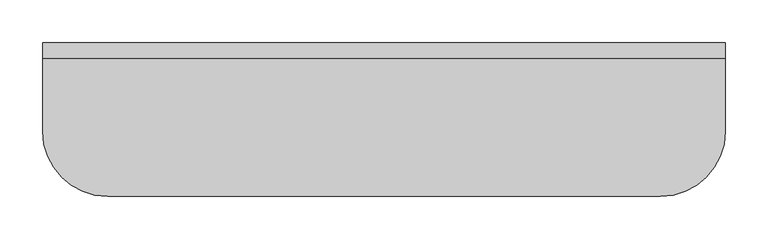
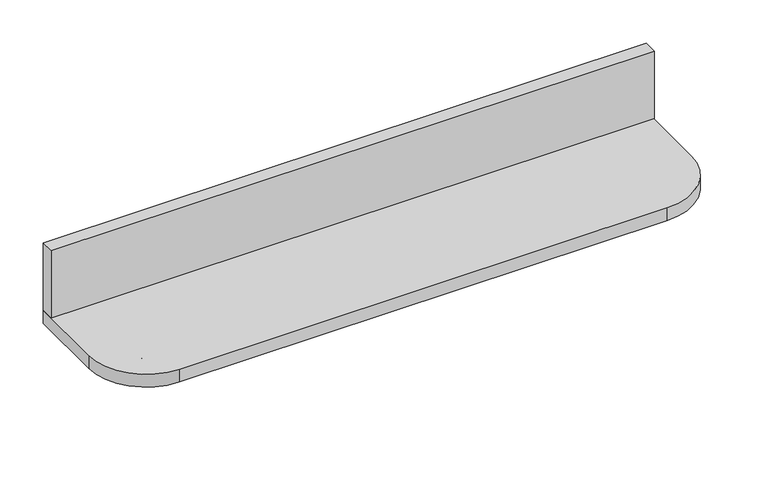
"""IFC4 building model written with IfcOpenShell, lengths in millimetres: furniture geometry, Mobiliário_Mobiliário de Escritório_Prateleira - CTPR08_Marelli : CTPR 08."""

import ifcopenshell
import ifcopenshell.guid

model = None  # the IFC model being written
_history = None  # IfcOwnerHistory: only IFC2X3 demands one
_inside = {}  # id of a spatial element -> (the spatial element, [elements in it])
_under = {}  # id of a project, library or spatial element -> (it, [spatial elements below it])
_declared = {}  # id of a project -> (the project, [libraries it declares])
_typed = {}  # id of a type object -> (the type object, [elements of that type])
_made_of = {}  # id of a material, layer set ... -> (it, [elements and type objects made of it])


def new_model(schema):
    """Start an empty IFC model of exactly this schema.

    Asked for "IFC4X3", IfcOpenShell would pick the latest addendum, in which some entities
    have other attributes; the version numbers below select the first issue.
    IFC2X3 requires an IfcOwnerHistory on every rooted entity: one is made here for all.
    """
    global model, _history
    if schema == "IFC4X3":
        model = ifcopenshell.file(schema_version=(4, 3, 0, 0))
    else:
        model = ifcopenshell.file(schema=schema)
    _inside.clear()
    _under.clear()
    _declared.clear()
    _typed.clear()
    _made_of.clear()
    _history = None
    if model.schema == "IFC2X3":
        org = make("IfcOrganization", Name="unknown")
        user = make(
            "IfcPersonAndOrganization",
            ThePerson=make("IfcPerson", FamilyName="unknown"),
            TheOrganization=org,
        )
        app = make(
            "IfcApplication",
            ApplicationDeveloper=org,
            Version="unknown",
            ApplicationFullName="unknown",
            ApplicationIdentifier="unknown",
        )
        _history = make(
            "IfcOwnerHistory",
            OwningUser=user,
            OwningApplication=app,
            ChangeAction="ADDED",
            CreationDate=0,
        )
    return model


def make(cls, **values):
    """One entity of the class cls with the attributes given. An attribute that is None is left unset."""
    return model.create_entity(
        cls, **{name: value for name, value in values.items() if value is not None}
    )


def rooted(cls, **values):
    """An entity with a GlobalId (a new one), such as an element, a storey or a relation."""
    return make(cls, GlobalId=ifcopenshell.guid.new(), OwnerHistory=_history, **values)


def si_unit(unit_type, name, prefix=None):
    """IfcSIUnit, for example si_unit("LENGTHUNIT", "METRE", prefix="MILLI")."""
    return make("IfcSIUnit", UnitType=unit_type, Prefix=prefix, Name=name)


def assignment(units):
    """IfcUnitAssignment: the units of a project."""
    return None if units is None else make("IfcUnitAssignment", Units=units)


def point(xyz):
    """IfcCartesianPoint."""
    return None if xyz is None else make("IfcCartesianPoint", Coordinates=xyz)


def direction(xyz):
    """IfcDirection."""
    return None if xyz is None else make("IfcDirection", DirectionRatios=xyz)


def frame(location, z_axis=None, x_axis=None):
    """IfcAxis2Placement3D, a coordinate frame: its origin and axes. An axis left out is left unset."""
    return make(
        "IfcAxis2Placement3D",
        Location=point(location),
        Axis=direction(z_axis),
        RefDirection=direction(x_axis),
    )


def frame_2d(location, x_axis=None):
    """IfcAxis2Placement2D, a coordinate frame in the plane: its origin and x axis."""
    return make(
        "IfcAxis2Placement2D", Location=point(location), RefDirection=direction(x_axis)
    )


def origin():
    """The frame at (0, 0, 0) with its axes left unset."""
    return frame((0.0, 0.0, 0.0))


def origin_with_axes():
    """The frame at (0, 0, 0) with the z axis (0, 0, 1) and the x axis (1, 0, 0) written out."""
    return frame((0.0, 0.0, 0.0), z_axis=(0.0, 0.0, 1.0), x_axis=(1.0, 0.0, 0.0))


def place(relative_to, where):
    """IfcLocalPlacement: puts the frame where relative to a parent placement (None: the world)."""
    return make(
        "IfcLocalPlacement", PlacementRelTo=relative_to, RelativePlacement=where
    )


def context(
    kind, dimensions, precision=None, world=None, true_north=None, identifier=None
):
    """IfcGeometricRepresentationContext, for example the 3D "Model" context."""
    return make(
        "IfcGeometricRepresentationContext",
        ContextIdentifier=identifier,
        ContextType=kind,
        CoordinateSpaceDimension=dimensions,
        Precision=precision,
        WorldCoordinateSystem=world,
        TrueNorth=true_north,
    )


def project(units=None, contexts=None):
    """IfcProject with its units and contexts."""
    return rooted(
        "IfcProject",
        Name="project",
        RepresentationContexts=contexts,
        UnitsInContext=assignment(units),
    )


def spatial(cls, under=None, at=None, **own):
    """A site, building, storey or space (cls), placed at a placement, below another one or the project."""
    s = rooted(cls, ObjectPlacement=at, **own)
    if under is not None:
        _under.setdefault(under.id(), (under, []))[1].append(s)
    return s


def polyline(points):
    """IfcPolyline through the points."""
    return make("IfcPolyline", Points=[point(p) for p in points])


def circle_curve(where, radius):
    """IfcCircle in the frame where."""
    return make("IfcCircle", Position=where, Radius=radius)


def trimmed(basis, trim1, trim2, sense, master):
    """IfcTrimmedCurve: the piece of a basis curve between two trims."""
    return make(
        "IfcTrimmedCurve",
        BasisCurve=basis,
        Trim1=trim1,
        Trim2=trim2,
        SenseAgreement=sense,
        MasterRepresentation=master,
    )


def segment(curve, same_sense, transition):
    """IfcCompositeCurveSegment."""
    return make(
        "IfcCompositeCurveSegment",
        Transition=transition,
        SameSense=same_sense,
        ParentCurve=curve,
    )


def composite_curve(segments, self_intersect=None):
    """IfcCompositeCurve: segments joined end to end."""
    return make("IfcCompositeCurve", Segments=segments, SelfIntersect=self_intersect)


def outline(outer, holes=None, kind="AREA"):
    """IfcArbitraryClosedProfileDef: a profile drawn as a closed curve; with holes, ...WithVoids."""
    if holes is None:
        return make("IfcArbitraryClosedProfileDef", ProfileType=kind, OuterCurve=outer)
    return make(
        "IfcArbitraryProfileDefWithVoids",
        ProfileType=kind,
        OuterCurve=outer,
        InnerCurves=holes,
    )


def extrude(swept, where, along, depth):
    """IfcExtrudedAreaSolid: the profile swept, set in the frame where, extruded along a direction by depth."""
    return make(
        "IfcExtrudedAreaSolid",
        SweptArea=swept,
        Position=where,
        ExtrudedDirection=direction(along),
        Depth=depth,
    )


def shape(context_of_items, identifier, shape_type, items):
    """IfcShapeRepresentation: the items that make up one representation, for example the "Body"."""
    return make(
        "IfcShapeRepresentation",
        ContextOfItems=context_of_items,
        RepresentationIdentifier=identifier,
        RepresentationType=shape_type,
        Items=items,
    )


def source(mapping_origin, context_of_items, identifier, shape_type, items):
    """IfcRepresentationMap: a shape defined once, which mapped items show again and again."""
    return make(
        "IfcRepresentationMap",
        MappingOrigin=mapping_origin,
        MappedRepresentation=shape(context_of_items, identifier, shape_type, items),
    )


def transform(
    local_origin,
    x_axis=None,
    y_axis=None,
    z_axis=None,
    scale=None,
    scale2=None,
    scale3=None,
    uniform=True,
):
    """IfcCartesianTransformationOperator3D, or its non-uniform kind. x_axis, y_axis, z_axis: its Axis1, 2, 3."""
    if uniform:
        return make(
            "IfcCartesianTransformationOperator3D",
            Axis1=direction(x_axis),
            Axis2=direction(y_axis),
            LocalOrigin=point(local_origin),
            Scale=scale,
            Axis3=direction(z_axis),
        )
    return make(
        "IfcCartesianTransformationOperator3DnonUniform",
        Axis1=direction(x_axis),
        Axis2=direction(y_axis),
        LocalOrigin=point(local_origin),
        Scale=scale,
        Axis3=direction(z_axis),
        Scale2=scale2,
        Scale3=scale3,
    )


def mapped(mapping_source, mapping_target):
    """IfcMappedItem: shows the shape of a source again, moved by a transform."""
    return make(
        "IfcMappedItem", MappingSource=mapping_source, MappingTarget=mapping_target
    )


def made_of(thing, what):
    """Note that an element or type object is made of a material, layer set ...; save() writes the relation."""
    if what is not None:
        _made_of.setdefault(what.id(), (what, []))[1].append(thing)
    return thing


def element(
    cls,
    number,
    at=None,
    inside=None,
    cuts=None,
    type_object=None,
    material=None,
    context=None,
    identifier="Body",
    shape_type=None,
    held_by="IfcProductDefinitionShape",
    body=None,
    shapes=None,
    **own,
):
    """One element of the class cls, such as IfcWall. Its Tag is "e" and its number.

    at: its placement. inside: the storey or other place that contains it. cuts: it is an
    opening in that element (IfcRelVoidsElement). A single representation is given by context,
    identifier, shape_type and body (its items); several are given by shapes. held_by: the class
    of the entity that holds the representations. save() writes the other relations.
    """
    e = rooted(cls, Tag="e%d" % number, ObjectPlacement=at, **own)
    if body is not None:
        shapes = [shape(context, identifier, shape_type, body)]
    if shapes is not None:
        e.Representation = make(held_by, Representations=shapes)
    if inside is not None:
        _inside.setdefault(inside.id(), (inside, []))[1].append(e)
    if cuts is not None:
        rooted(
            "IfcRelVoidsElement", RelatingBuildingElement=cuts, RelatedOpeningElement=e
        )
    if type_object is not None:
        _typed.setdefault(type_object.id(), (type_object, []))[1].append(e)
    return made_of(e, material)


def aggregate(whole, parts):
    """IfcRelAggregates: a whole, such as a stair, and the parts it consists of."""
    return rooted("IfcRelAggregates", RelatingObject=whole, RelatedObjects=parts)


def save(model, path):
    """Write the relations noted so far, then the file.

    IfcRelAggregates (storeys below a building ...), IfcRelContainedInSpatialStructure (elements
    in a storey), IfcRelDefinesByType, IfcRelAssociatesMaterial and IfcRelDeclares: one each for
    every whole, place, type object, material and project.
    """
    for whole, parts in _under.values():
        aggregate(whole, parts)
    for where, things in _inside.values():
        rooted(
            "IfcRelContainedInSpatialStructure",
            RelatedElements=things,
            RelatingStructure=where,
        )
    for kind, things in _typed.values():
        rooted("IfcRelDefinesByType", RelatedObjects=things, RelatingType=kind)
    for what, things in _made_of.values():
        rooted("IfcRelAssociatesMaterial", RelatedObjects=things, RelatingMaterial=what)
    for by, libraries in _declared.values():
        rooted("IfcRelDeclares", RelatingContext=by, RelatedDefinitions=libraries)
    model.write(path)


def furniture_4c59f325(model_context):
    return source(origin(), model_context, "Body", "SweptSolid", [
        extrude(outline(composite_curve([segment(polyline([(724.0, 0.0), (76.0, 0.0)]), True, "CONTINUOUS"), segment(trimmed(circle_curve(frame_2d((76.0, 76.0)), 76.0), [point((76.0, 0.0))], [point((0.0, 76.0))], False, "CARTESIAN"), True, "CONTINUOUS"), segment(polyline([(0.0, 76.0), (0.0, 180.0), (800.0, 180.0), (800.0, 76.0)]), True, "CONTINUOUS"), segment(trimmed(circle_curve(frame_2d((724.0, 76.0)), 76.0), [point((800.0, 76.0))], [point((724.0, 0.0))], False, "CARTESIAN"), True, "CONTINUOUS")], self_intersect=False)), origin_with_axes(), (0.0, 0.0, 1.0), 18.0),
        extrude(outline(polyline([(0.0, 180.0), (800.0, 180.0), (800.0, 162.0), (0.0, 162.0), (0.0, 180.0)])), frame((0.0, 0.0, 18.0), z_axis=(0.0, 0.0, 1.0), x_axis=(1.0, 0.0, 0.0)), (0.0, 0.0, 1.0), 95.0),
        extrude(outline(composite_curve([segment(trimmed(circle_curve(frame_2d((88.0, 163.0)), 5.0), [point((88.0, 168.0))], [point((93.0, 163.0))], False, "CARTESIAN"), True, "CONTINUOUS"), segment(polyline([(93.0, 163.0), (93.0, 21.0)]), True, "CONTINUOUS"), segment(trimmed(circle_curve(frame_2d((88.0, 21.0)), 5.0), [point((93.0, 21.0))], [point((88.0, 16.0))], False, "CARTESIAN"), True, "CONTINUOUS"), segment(polyline([(88.0, 16.0), (48.0, 16.0)]), True, "CONTINUOUS"), segment(trimmed(circle_curve(frame_2d((48.0, 21.0)), 5.0), [point((48.0, 16.0))], [point((43.0, 21.0))], False, "CARTESIAN"), True, "CONTINUOUS"), segment(polyline([(43.0, 21.0), (43.0, 163.0)]), True, "CONTINUOUS"), segment(trimmed(circle_curve(frame_2d((48.0, 163.0)), 5.0), [point((43.0, 163.0))], [point((48.0, 168.0))], False, "CARTESIAN"), True, "CONTINUOUS"), segment(polyline([(48.0, 168.0), (88.0, 168.0)]), True, "CONTINUOUS")], self_intersect=False)), frame((0.0, 0.0, -3.0), z_axis=(0.0, 0.0, 1.0), x_axis=(1.0, 0.0, 0.0)), (0.0, 0.0, 1.0), 3.0),
        extrude(outline(composite_curve([segment(polyline([(712.0, 168.0), (752.0, 168.0)]), True, "CONTINUOUS"), segment(trimmed(circle_curve(frame_2d((752.0, 163.0)), 5.0), [point((752.0, 168.0))], [point((757.0, 163.0))], False, "CARTESIAN"), True, "CONTINUOUS"), segment(polyline([(757.0, 163.0), (757.0, 21.0)]), True, "CONTINUOUS"), segment(trimmed(circle_curve(frame_2d((752.0, 21.0)), 5.0), [point((757.0, 21.0))], [point((752.0, 16.0))], False, "CARTESIAN"), True, "CONTINUOUS"), segment(polyline([(752.0, 16.0), (712.0, 16.0)]), True, "CONTINUOUS"), segment(trimmed(circle_curve(frame_2d((712.0, 21.0)), 5.0), [point((712.0, 16.0))], [point((707.0, 21.0))], False, "CARTESIAN"), True, "CONTINUOUS"), segment(polyline([(707.0, 21.0), (707.0, 163.0)]), True, "CONTINUOUS"), segment(trimmed(circle_curve(frame_2d((712.0, 163.0)), 5.0), [point((707.0, 163.0))], [point((712.0, 168.0))], False, "CARTESIAN"), True, "CONTINUOUS")], self_intersect=False)), frame((0.0, 0.0, -3.0), z_axis=(0.0, 0.0, 1.0), x_axis=(1.0, 0.0, 0.0)), (0.0, 0.0, 1.0), 3.0),
        extrude(outline(composite_curve([segment(polyline([(168.0, -21.0), (177.0, -21.0), (177.0, -38.0), (170.0, -38.0), (169.005656, -29.0), (168.0, -29.0), (168.0, -61.0), (177.0, -61.0), (177.0, -78.0), (170.0, -78.0), (169.005656, -69.0), (168.0, -69.0), (168.0, -78.0), (162.0, -78.0)]), True, "CONTINUOUS"), segment(trimmed(circle_curve(frame_2d((162.0, -73.9980971)), 4.0019029), [point((162.0, -78.0))], [point((157.9980971, -73.9980971))], False, "CARTESIAN"), True, "CONTINUOUS"), segment(trimmed(circle_curve(frame_2d((75.5, -95.1720048)), 85.1720048), [point((157.9980971, -73.9980971))], [point((75.5, -10.0))], True, "CARTESIAN"), True, "CONTINUOUS"), segment(trimmed(circle_curve(frame_2d((75.5, -6.5)), 3.5), [point((75.5, -10.0))], [point((72.0, -6.5))], False, "CARTESIAN"), True, "CONTINUOUS"), segment(polyline([(72.0, -6.5), (72.0, -3.0), (168.0, -3.0), (168.0, -21.0)]), True, "CONTINUOUS")], self_intersect=False)), frame((66.5, 0.0, 0.0), z_axis=(1.0, 0.0, 0.0), x_axis=(0.0, 1.0, 0.0)), (0.0, 0.0, 1.0), 3.0),
        extrude(outline(composite_curve([segment(polyline([(168.0, -21.0), (177.0, -21.0), (177.0, -38.0), (170.0, -38.0), (169.005656, -29.0), (168.0, -29.0), (168.0, -61.0), (177.0, -61.0), (177.0, -78.0), (170.0, -78.0), (169.005656, -69.0), (168.0, -69.0), (168.0, -78.0), (162.0, -78.0)]), True, "CONTINUOUS"), segment(trimmed(circle_curve(frame_2d((162.0, -73.9980971)), 4.0019029), [point((162.0, -78.0))], [point((157.9980971, -73.9980971))], False, "CARTESIAN"), True, "CONTINUOUS"), segment(trimmed(circle_curve(frame_2d((75.5, -95.1720048)), 85.1720048), [point((157.9980971, -73.9980971))], [point((75.5, -10.0))], True, "CARTESIAN"), True, "CONTINUOUS"), segment(trimmed(circle_curve(frame_2d((75.5, -6.5)), 3.5), [point((75.5, -10.0))], [point((72.0, -6.5))], False, "CARTESIAN"), True, "CONTINUOUS"), segment(polyline([(72.0, -6.5), (72.0, -3.0), (168.0, -3.0), (168.0, -21.0)]), True, "CONTINUOUS")], self_intersect=False)), frame((730.5, 0.0, 0.0), z_axis=(1.0, 0.0, 0.0), x_axis=(0.0, 1.0, 0.0)), (0.0, 0.0, 1.0), 3.0),
    ])


if __name__ == "__main__":
    model = new_model("IFC4")
    model_context = context("Model", 3, world=origin())
    ifc_project = project(units=[si_unit("LENGTHUNIT", "METRE", prefix="MILLI")], contexts=[model_context])
    site = spatial("IfcSite", under=ifc_project)
    building = spatial("IfcBuilding", under=site)
    placement = place(None, origin())
    furniture_shape = furniture_4c59f325(model_context)
    element("IfcFurniture", 1, ObjectType="Mobiliário_Mobiliário de Escritório_Prateleira - CTPR08_Marelli : CTPR 08", at=placement, inside=building, context=model_context, shape_type="MappedRepresentation", body=[
        mapped(furniture_shape, transform((0.0, 0.0, 0.0), x_axis=(1.0, 0.0, 0.0), y_axis=(0.0, 1.0, 0.0), z_axis=(0.0, 0.0, 1.0))),
    ])
    save(model, "model.ifc")
